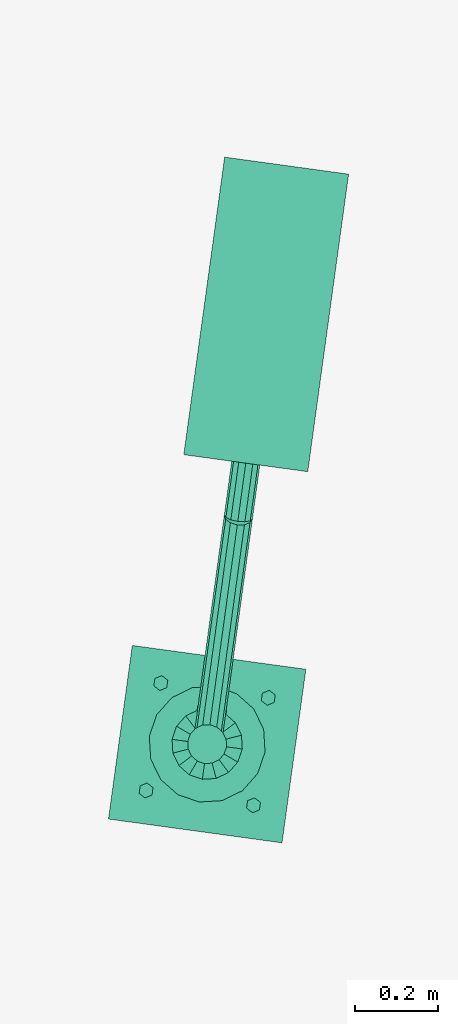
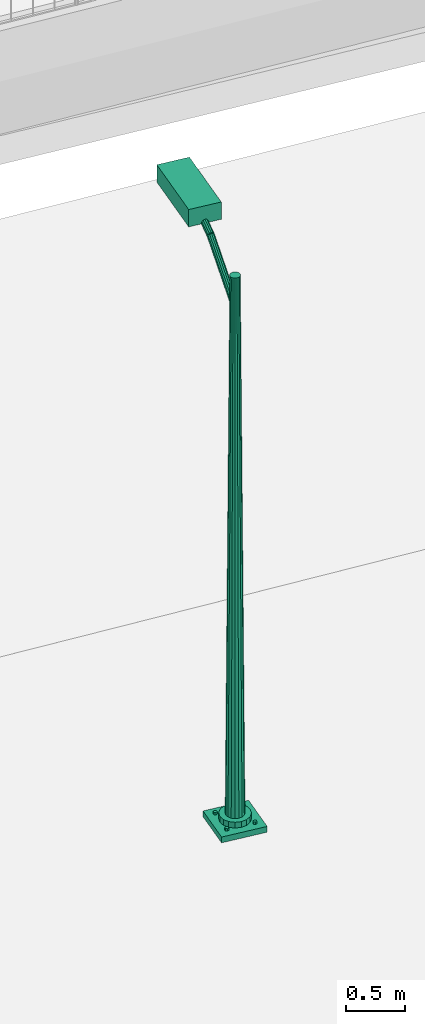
# Not in any storey, part 63 of 75: 1 light fixture.
"""IFC4 model written with IfcOpenShell, lengths in metres."""

from ifc_helpers import new_model, si_unit, direction, origin, origin_with_axes, place, context, subcontext, project, spatial, triangles, element, save


model = new_model("IFC4")

# Units and contexts
model_context = context("Model", 3, precision=1e-05, world=origin_with_axes(), true_north=direction((0.0, 1.0)))
body_context = subcontext(model_context, "Body", "Model", "MODEL_VIEW")
ifc_project = project(units=[si_unit("AREAUNIT", "SQUARE_METRE"), si_unit("VOLUMEUNIT", "CUBIC_METRE"), si_unit("LENGTHUNIT", "METRE")], contexts=[model_context])

# Site
site_placement = place(None, origin_with_axes())
site = spatial("IfcSite", under=ifc_project, at=site_placement, Name="Parcela industrial Jinhong")

# Light fixture
light_fixture_placement = place(None, origin())
element("IfcLightFixture", 1, at=light_fixture_placement, inside=site, Name="Luminaria LED L03 · provisional", ObjectType="Luminaria exterior provisional", PredefinedType="USERDEFINED", context=body_context, shape_type="Tessellation", body=[
    triangles([(111.179469, 82.763376, 2.443495), (111.179469, 82.763376, 2.503495), (110.763376, 82.820531, 2.443495), (110.763376, 82.820531, 2.503495), (111.236624, 83.179469, 2.443495), (111.236624, 83.179469, 2.503495), (110.820531, 83.236624, 2.443495), (110.820531, 83.236624, 2.503495)], [[2, 4, 1], [5, 2, 1], [1, 4, 3], [3, 5, 1], [2, 8, 4], [6, 2, 5], [6, 8, 2], [4, 8, 3], [7, 5, 3], [3, 8, 7], [7, 6, 5], [8, 6, 7]], closed=True),
    triangles([(111.0, 83.0, 2.503495), (111.019052, 83.138698, 2.503495), (111.019052, 83.138698, 2.563495), (111.0, 83.0, 2.563495), (110.964524, 83.135431, 2.503495), (110.964524, 83.135431, 2.563495), (110.915398, 83.111546, 2.503495), (110.915398, 83.111546, 2.563495), (110.879151, 83.070679, 2.503495), (110.879151, 83.070679, 2.563495), (110.861302, 83.019052, 2.503495), (110.861302, 83.019052, 2.563495), (110.864569, 82.964524, 2.503495), (110.864569, 82.964524, 2.563495), (110.888454, 82.915398, 2.503495), (110.888454, 82.915398, 2.563495), (110.929321, 82.879151, 2.503495), (110.929321, 82.879151, 2.563495), (110.980948, 82.861302, 2.503495), (110.980948, 82.861302, 2.563495), (111.035476, 82.864569, 2.503495), (111.035476, 82.864569, 2.563495), (111.084602, 82.888454, 2.503495), (111.084602, 82.888454, 2.563495), (111.120849, 82.929321, 2.503495), (111.120849, 82.929321, 2.563495), (111.138698, 82.980948, 2.503495), (111.138698, 82.980948, 2.563495), (111.135431, 83.035476, 2.503495), (111.135431, 83.035476, 2.563495), (111.111546, 83.084602, 2.503495), (111.111546, 83.084602, 2.563495), (111.070679, 83.120849, 2.503495), (111.070679, 83.120849, 2.563495)], [[2, 1, 5], [2, 5, 3], [3, 5, 6], [3, 6, 4], [5, 1, 7], [5, 7, 6], [6, 7, 8], [6, 8, 4], [7, 1, 9], [7, 9, 8], [8, 9, 10], [8, 10, 4], [9, 1, 11], [9, 11, 10], [10, 11, 12], [10, 12, 4], [11, 1, 13], [11, 13, 12], [12, 13, 14], [12, 14, 4], [13, 1, 15], [13, 15, 14], [14, 15, 16], [14, 16, 4], [15, 1, 17], [15, 17, 16], [16, 17, 18], [16, 18, 4], [17, 1, 19], [17, 19, 18], [18, 19, 20], [18, 20, 4], [19, 1, 21], [19, 21, 20], [20, 21, 22], [20, 22, 4], [21, 1, 23], [21, 23, 22], [22, 23, 24], [22, 24, 4], [23, 1, 25], [23, 25, 24], [24, 25, 26], [24, 26, 4], [25, 1, 27], [25, 27, 26], [26, 27, 28], [26, 28, 4], [27, 1, 29], [27, 29, 28], [28, 29, 30], [28, 30, 4], [29, 1, 31], [29, 31, 30], [30, 31, 32], [30, 32, 4], [31, 1, 33], [31, 33, 32], [32, 33, 34], [32, 34, 4], [33, 1, 2], [33, 2, 34], [34, 2, 3], [34, 3, 4]], closed=True),
    triangles([(111.011567, 83.084209, 2.563495), (110.978461, 83.082226, 2.563495), (110.948634, 83.067724, 2.563495), (110.926627, 83.042912, 2.563495), (110.915791, 83.011567, 2.563495), (110.917774, 82.978461, 2.563495), (110.932276, 82.948634, 2.563495), (110.957088, 82.926627, 2.563495), (110.988433, 82.915791, 2.563495), (111.021539, 82.917774, 2.563495), (111.051366, 82.932276, 2.563495), (111.073373, 82.957088, 2.563495), (111.084209, 82.988433, 2.563495), (111.082226, 83.021539, 2.563495), (111.067724, 83.051366, 2.563495), (111.042912, 83.073373, 2.563495), (111.006124, 83.044581, 8.143495), (110.988597, 83.043531, 8.143495), (110.972806, 83.035854, 8.143495), (110.961156, 83.022718, 8.143495), (110.955419, 83.006124, 8.143495), (110.956469, 82.988597, 8.143495), (110.964146, 82.972806, 8.143495), (110.977282, 82.961156, 8.143495), (110.993876, 82.955419, 8.143495), (111.011403, 82.956469, 8.143495), (111.027194, 82.964146, 8.143495), (111.038844, 82.977282, 8.143495), (111.044581, 82.993876, 8.143495), (111.043531, 83.011403, 8.143495), (111.035854, 83.027194, 8.143495), (111.022718, 83.038844, 8.143495)], [[31, 14, 15], [30, 14, 31], [29, 14, 30], [13, 14, 29], [26, 10, 11], [26, 11, 27], [9, 10, 26], [26, 25, 9], [4, 10, 9], [1, 16, 4], [13, 12, 4], [4, 6, 5], [9, 8, 4], [4, 2, 1], [4, 16, 15], [3, 2, 4], [4, 12, 11], [11, 10, 4], [4, 14, 13], [15, 14, 4], [7, 6, 4], [4, 8, 7], [1, 2, 18], [18, 17, 1], [32, 16, 1], [1, 17, 32], [15, 16, 32], [32, 31, 15], [11, 12, 28], [27, 11, 28], [28, 12, 13], [13, 29, 28], [21, 4, 5], [20, 4, 21], [7, 8, 24], [23, 7, 24], [9, 25, 24], [24, 8, 9], [3, 4, 19], [19, 4, 20], [19, 2, 3], [19, 18, 2], [22, 32, 17], [22, 26, 27], [17, 18, 22], [22, 19, 20], [27, 28, 22], [30, 31, 22], [22, 29, 30], [25, 26, 22], [23, 24, 22], [31, 32, 22], [22, 28, 29], [20, 21, 22], [22, 24, 25], [18, 19, 22], [22, 6, 7], [22, 7, 23], [5, 6, 22], [22, 21, 5]], closed=True),
    triangles([(111.0, 83.0, 8.143495), (111.006396, 83.046563, 8.143495), (111.006396, 83.046563, 8.163495), (111.0, 83.0, 8.163495), (110.98809, 83.045466, 8.143495), (110.98809, 83.045466, 8.163495), (110.971598, 83.037447, 8.143495), (110.971598, 83.037447, 8.163495), (110.959429, 83.023728, 8.143495), (110.959429, 83.023728, 8.163495), (110.953437, 83.006396, 8.143495), (110.953437, 83.006396, 8.163495), (110.954534, 82.98809, 8.143495), (110.954534, 82.98809, 8.163495), (110.962553, 82.971598, 8.143495), (110.962553, 82.971598, 8.163495), (110.976272, 82.959429, 8.143495), (110.976272, 82.959429, 8.163495), (110.993604, 82.953437, 8.143495), (110.993604, 82.953437, 8.163495), (111.01191, 82.954534, 8.143495), (111.01191, 82.954534, 8.163495), (111.028402, 82.962553, 8.143495), (111.028402, 82.962553, 8.163495), (111.040571, 82.976272, 8.143495), (111.040571, 82.976272, 8.163495), (111.046563, 82.993604, 8.143495), (111.046563, 82.993604, 8.163495), (111.045466, 83.01191, 8.143495), (111.045466, 83.01191, 8.163495), (111.037447, 83.028402, 8.143495), (111.037447, 83.028402, 8.163495), (111.023728, 83.040571, 8.143495), (111.023728, 83.040571, 8.163495)], [[2, 1, 5], [2, 5, 3], [3, 5, 6], [3, 6, 4], [5, 1, 7], [5, 7, 6], [6, 7, 8], [6, 8, 4], [7, 1, 9], [7, 9, 8], [8, 9, 10], [8, 10, 4], [9, 1, 11], [9, 11, 10], [10, 11, 12], [10, 12, 4], [11, 1, 13], [11, 13, 12], [12, 13, 14], [12, 14, 4], [13, 1, 15], [13, 15, 14], [14, 15, 16], [14, 16, 4], [15, 1, 17], [15, 17, 16], [16, 17, 18], [16, 18, 4], [17, 1, 19], [17, 19, 18], [18, 19, 20], [18, 20, 4], [19, 1, 21], [19, 21, 20], [20, 21, 22], [20, 22, 4], [21, 1, 23], [21, 23, 22], [22, 23, 24], [22, 24, 4], [23, 1, 25], [23, 25, 24], [24, 25, 26], [24, 26, 4], [25, 1, 27], [25, 27, 26], [26, 27, 28], [26, 28, 4], [27, 1, 29], [27, 29, 28], [28, 29, 30], [28, 30, 4], [29, 1, 31], [29, 31, 30], [30, 31, 32], [30, 32, 4], [31, 1, 33], [31, 33, 32], [32, 33, 34], [32, 34, 4], [33, 1, 2], [33, 2, 34], [34, 2, 3], [34, 3, 4]], closed=True),
    triangles([(111.1111, 82.853518, 2.503495), (111.113549, 82.871351, 2.503495), (111.113549, 82.871351, 2.528495), (111.1111, 82.853518, 2.528495), (111.096881, 82.864556, 2.503495), (111.096881, 82.864556, 2.528495), (111.094431, 82.846723, 2.503495), (111.094431, 82.846723, 2.528495), (111.10865, 82.835686, 2.503495), (111.10865, 82.835686, 2.528495), (111.125318, 82.842481, 2.503495), (111.125318, 82.842481, 2.528495), (111.127768, 82.860313, 2.503495), (111.127768, 82.860313, 2.528495)], [[2, 1, 5], [2, 5, 3], [3, 5, 6], [3, 6, 4], [5, 1, 7], [5, 7, 6], [6, 7, 8], [6, 8, 4], [7, 1, 9], [7, 9, 8], [8, 9, 10], [8, 10, 4], [9, 1, 11], [9, 11, 10], [10, 11, 12], [10, 12, 4], [11, 1, 13], [11, 13, 12], [12, 13, 14], [12, 14, 4], [13, 1, 2], [13, 2, 14], [14, 2, 3], [14, 3, 4]], closed=True),
    triangles([(110.853518, 82.8889, 2.503495), (110.855968, 82.906733, 2.503495), (110.855968, 82.906733, 2.528495), (110.853518, 82.8889, 2.528495), (110.8393, 82.899938, 2.503495), (110.8393, 82.899938, 2.528495), (110.83685, 82.882105, 2.503495), (110.83685, 82.882105, 2.528495), (110.851069, 82.871068, 2.503495), (110.851069, 82.871068, 2.528495), (110.867737, 82.877863, 2.503495), (110.867737, 82.877863, 2.528495), (110.870187, 82.895695, 2.503495), (110.870187, 82.895695, 2.528495)], [[2, 1, 5], [2, 5, 3], [3, 5, 6], [3, 6, 4], [5, 1, 7], [5, 7, 6], [6, 7, 8], [6, 8, 4], [7, 1, 9], [7, 9, 8], [8, 9, 10], [8, 10, 4], [9, 1, 11], [9, 11, 10], [10, 11, 12], [10, 12, 4], [11, 1, 13], [11, 13, 12], [12, 13, 14], [12, 14, 4], [13, 1, 2], [13, 2, 14], [14, 2, 3], [14, 3, 4]], closed=True),
    triangles([(111.146482, 83.1111, 2.503495), (111.148931, 83.128932, 2.503495), (111.148931, 83.128932, 2.528495), (111.146482, 83.1111, 2.528495), (111.132263, 83.122137, 2.503495), (111.132263, 83.122137, 2.528495), (111.129813, 83.104305, 2.503495), (111.129813, 83.104305, 2.528495), (111.144032, 83.093267, 2.503495), (111.144032, 83.093267, 2.528495), (111.1607, 83.100062, 2.503495), (111.1607, 83.100062, 2.528495), (111.16315, 83.117895, 2.503495), (111.16315, 83.117895, 2.528495)], [[2, 1, 5], [2, 5, 3], [3, 5, 6], [3, 6, 4], [5, 1, 7], [5, 7, 6], [6, 7, 8], [6, 8, 4], [7, 1, 9], [7, 9, 8], [8, 9, 10], [8, 10, 4], [9, 1, 11], [9, 11, 10], [10, 11, 12], [10, 12, 4], [11, 1, 13], [11, 13, 12], [12, 13, 14], [12, 14, 4], [13, 1, 2], [13, 2, 14], [14, 2, 3], [14, 3, 4]], closed=True),
    triangles([(110.8889, 83.146482, 2.503495), (110.89135, 83.164314, 2.503495), (110.89135, 83.164314, 2.528495), (110.8889, 83.146482, 2.528495), (110.874682, 83.157519, 2.503495), (110.874682, 83.157519, 2.528495), (110.872232, 83.139687, 2.503495), (110.872232, 83.139687, 2.528495), (110.886451, 83.128649, 2.503495), (110.886451, 83.128649, 2.528495), (110.903119, 83.135444, 2.503495), (110.903119, 83.135444, 2.528495), (110.905569, 83.153277, 2.503495), (110.905569, 83.153277, 2.528495)], [[2, 1, 5], [2, 5, 3], [3, 5, 6], [3, 6, 4], [5, 1, 7], [5, 7, 6], [6, 7, 8], [6, 8, 4], [7, 1, 9], [7, 9, 8], [8, 9, 10], [8, 10, 4], [9, 1, 11], [9, 11, 10], [10, 11, 12], [10, 12, 4], [11, 1, 13], [11, 13, 12], [12, 13, 14], [12, 14, 4], [13, 1, 2], [13, 2, 14], [14, 2, 3], [14, 3, 4]], closed=True),
    triangles([(111.044881, 83.069539, 2.973495), (111.044881, 83.069539, 3.273495), (110.975532, 83.079065, 2.973495), (110.975532, 83.079065, 3.273495), (111.046514, 83.081428, 2.973495), (111.046514, 83.081428, 3.273495), (110.977165, 83.090954, 2.973495), (110.977165, 83.090954, 3.273495)], [[2, 4, 1], [5, 2, 1], [1, 4, 3], [3, 5, 1], [2, 8, 4], [6, 2, 5], [6, 8, 2], [4, 8, 3], [7, 5, 3], [3, 8, 7], [7, 6, 5], [8, 6, 7]], closed=True),
    triangles([(111.0, 83.0, 7.843495), (111.00263, 83.019147, 7.815522), (111.077477, 83.56403, 8.195522), (111.074847, 83.544883, 8.223495), (110.985436, 83.018895, 7.81927), (111.060282, 83.563779, 8.19927), (110.972144, 83.01358, 7.829509), (111.046991, 83.558464, 8.209509), (110.966316, 83.004627, 7.843495), (111.041163, 83.54951, 8.223495), (110.969514, 82.994434, 7.857482), (111.044361, 83.539317, 8.237482), (110.98088, 82.985732, 7.86772), (111.055727, 83.530615, 8.24772), (110.99737, 82.980853, 7.871468), (111.072216, 83.525737, 8.251468), (111.014564, 82.981105, 7.86772), (111.089411, 83.525988, 8.24772), (111.027856, 82.98642, 7.857482), (111.102702, 83.531303, 8.237482), (111.033684, 82.995373, 7.843495), (111.10853, 83.540257, 8.223495), (111.030486, 83.005566, 7.829509), (111.105333, 83.55045, 8.209509), (111.01912, 83.014268, 7.81927), (111.093966, 83.559152, 8.19927)], [[2, 1, 5], [2, 5, 3], [3, 5, 6], [3, 6, 4], [5, 1, 7], [5, 7, 6], [6, 7, 8], [6, 8, 4], [7, 1, 9], [7, 9, 8], [8, 9, 10], [8, 10, 4], [9, 1, 11], [9, 11, 10], [10, 11, 12], [10, 12, 4], [11, 1, 13], [11, 13, 12], [12, 13, 14], [12, 14, 4], [13, 1, 15], [13, 15, 14], [14, 15, 16], [14, 16, 4], [15, 1, 17], [15, 17, 16], [16, 17, 18], [16, 18, 4], [17, 1, 19], [17, 19, 18], [18, 19, 20], [18, 20, 4], [19, 1, 21], [19, 21, 20], [20, 21, 22], [20, 22, 4], [21, 1, 23], [21, 23, 22], [22, 23, 24], [22, 24, 4], [23, 1, 25], [23, 25, 24], [24, 25, 26], [24, 26, 4], [25, 1, 2], [25, 2, 26], [26, 2, 3], [26, 3, 4]], closed=True),
    triangles([(111.074847, 83.544883, 8.223495), (111.076347, 83.555808, 8.191333), (111.123977, 83.902552, 8.311333), (111.122476, 83.891627, 8.343495), (111.059304, 83.556658, 8.195642), (111.106934, 83.903402, 8.315642), (111.046426, 83.554353, 8.207414), (111.094056, 83.901097, 8.327414), (111.041163, 83.54951, 8.223495), (111.088792, 83.896254, 8.343495), (111.044925, 83.543428, 8.239576), (111.092555, 83.890172, 8.359576), (111.056705, 83.537736, 8.251348), (111.104335, 83.88448, 8.371348), (111.073346, 83.533959, 8.255657), (111.120976, 83.880703, 8.375657), (111.090389, 83.533109, 8.251348), (111.138018, 83.879853, 8.371348), (111.103267, 83.535414, 8.239576), (111.150897, 83.882158, 8.359576), (111.10853, 83.540257, 8.223495), (111.15616, 83.887001, 8.343495), (111.104768, 83.546339, 8.207414), (111.152397, 83.893083, 8.327414), (111.092988, 83.552031, 8.195642), (111.140618, 83.898775, 8.315642)], [[2, 1, 5], [2, 5, 3], [3, 5, 6], [3, 6, 4], [5, 1, 7], [5, 7, 6], [6, 7, 8], [6, 8, 4], [7, 1, 9], [7, 9, 8], [8, 9, 10], [8, 10, 4], [9, 1, 11], [9, 11, 10], [10, 11, 12], [10, 12, 4], [11, 1, 13], [11, 13, 12], [12, 13, 14], [12, 14, 4], [13, 1, 15], [13, 15, 14], [14, 15, 16], [14, 16, 4], [15, 1, 17], [15, 17, 16], [16, 17, 18], [16, 18, 4], [17, 1, 19], [17, 19, 18], [18, 19, 20], [18, 20, 4], [19, 1, 21], [19, 21, 20], [20, 21, 22], [20, 22, 4], [21, 1, 23], [21, 23, 22], [22, 23, 24], [22, 24, 4], [23, 1, 25], [23, 25, 24], [24, 25, 26], [24, 26, 4], [25, 1, 2], [25, 2, 26], [26, 2, 3], [26, 3, 4]], closed=True),
    triangles([(111.241142, 83.653261, 8.263495), (111.241142, 83.653261, 8.443495), (110.943933, 83.694087, 8.263495), (110.943933, 83.694087, 8.443495), (111.339123, 84.366563, 8.263495), (111.339123, 84.366563, 8.443495), (111.041914, 84.407389, 8.263495), (111.041914, 84.407389, 8.443495)], [[2, 4, 1], [5, 2, 1], [1, 4, 3], [3, 5, 1], [2, 8, 4], [6, 2, 5], [6, 8, 2], [4, 8, 3], [7, 5, 3], [3, 8, 7], [7, 6, 5], [8, 6, 7]], closed=True),
    triangles([(111.209679, 83.718147, 8.238495), (111.209679, 83.718147, 8.263495), (110.991726, 83.748085, 8.238495), (110.991726, 83.748085, 8.263495), (111.29133, 84.312565, 8.238495), (111.29133, 84.312565, 8.263495), (111.073377, 84.342504, 8.238495), (111.073377, 84.342504, 8.263495)], [[2, 4, 1], [5, 2, 1], [1, 4, 3], [3, 5, 1], [2, 8, 4], [6, 2, 5], [6, 8, 2], [4, 8, 3], [7, 5, 3], [3, 8, 7], [7, 6, 5], [8, 6, 7]], closed=True),
])

save(model, "model.ifc")
